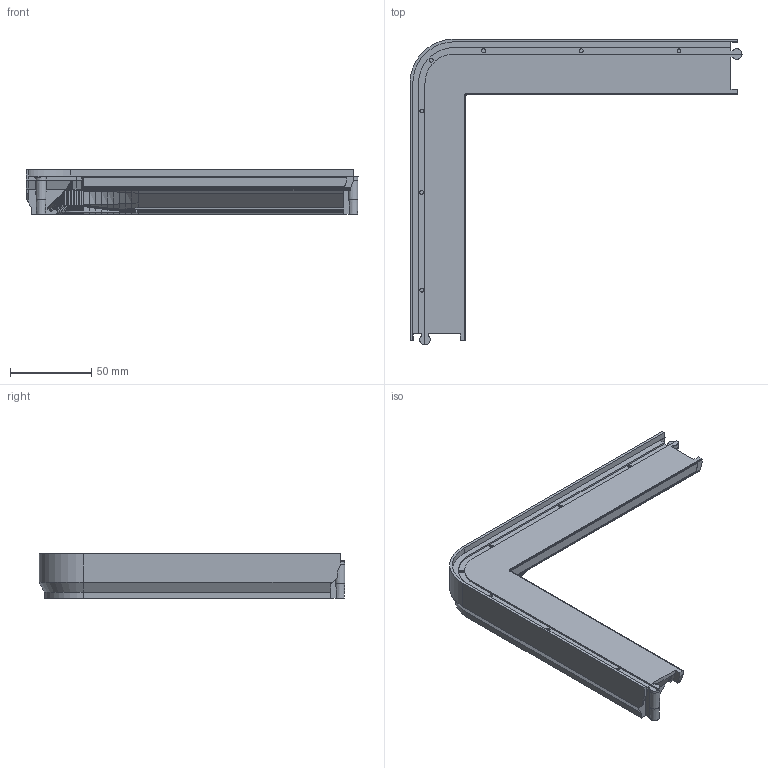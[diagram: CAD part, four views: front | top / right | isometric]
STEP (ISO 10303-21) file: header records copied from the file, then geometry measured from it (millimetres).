
FILE_DESCRIPTION(('Open CASCADE Model'),'2;1');
FILE_NAME('Open CASCADE Shape Model','2026-10-27T10:01:05',('Author'),( 'Open CASCADE'),'Open CASCADE STEP processor 8.0','build123d', 'Unknown');
FILE_SCHEMA(('AUTOMOTIVE_DESIGN { 1 0 10303 214 1 1 1 1 }'));
Products named in the file (1): SOLID
Bounding box: 203.9 x 187.9 x 27.4 mm (x, y, z)
Volume: 187243.2 mm3; surface area: 49286.2 mm2
Topology: 1 solids, 1 shells, 2231 faces, 4765 edges, 2543 vertices
Faces by surface type: bspline 1822, plane 388, cylinder 14, cone 7
Full cylindrical faces by diameter (mm): 2.4 x7
Entity records: 115527 total; most frequent: CARTESIAN_POINT 30244, DIRECTION 10912, LINE 9997, VECTOR 9997, ORIENTED_EDGE 9530, PCURVE 9530, DEFINITIONAL_REPRESENTATION 9530, EDGE_CURVE 4765
